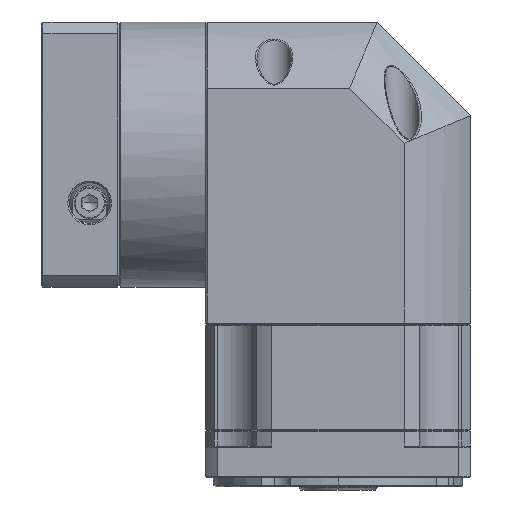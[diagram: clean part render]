
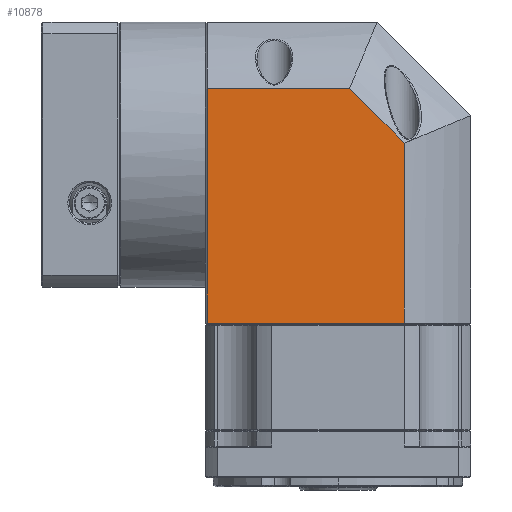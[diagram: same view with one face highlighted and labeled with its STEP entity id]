
A CAD part, left-side view. The second image highlights one B-rep face of the part: STEP entity #10878.
In plain terms, the highlighted planar face has unit normal (-1, 0, 0).
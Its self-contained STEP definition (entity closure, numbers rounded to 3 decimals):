
#1290 = CARTESIAN_POINT ( 'NONE',  ( -87.975, 26.563, 29.524 ) ) ;
#4385 = VECTOR ( 'NONE', #114763, 1000. ) ;
#7249 = DIRECTION ( 'NONE',  ( 0., 1., 0. ) ) ;
#8503 = DIRECTION ( 'NONE',  ( 0., 0., -1. ) ) ;
#8869 = ORIENTED_EDGE ( 'NONE', *, *, #101349, .F. ) ;
#10414 = VECTOR ( 'NONE', #45575, 1000. ) ;
#10878 = ADVANCED_FACE ( 'NONE', ( #76533 ), #78760, .F. ) ;
#12226 = CARTESIAN_POINT ( 'NONE',  ( -87.975, 72.746, 29.524 ) ) ;
#12323 = CARTESIAN_POINT ( 'NONE',  ( -87.975, 72.746, -45.689 ) ) ;
#14325 = CARTESIAN_POINT ( 'NONE',  ( -87.975, 26.563, 29.524 ) ) ;
#18013 = EDGE_CURVE ( 'NONE', #101600, #27806, #24886, .T. ) ;
#23253 = CARTESIAN_POINT ( 'NONE',  ( -87.975, 9.033, -45.689 ) ) ;
#24886 = LINE ( 'NONE', #86019, #10414 ) ;
#27806 = VERTEX_POINT ( 'NONE', #119415 ) ;
#29884 = EDGE_CURVE ( 'NONE', #52484, #44263, #121783, .T. ) ;
#32671 = ORIENTED_EDGE ( 'NONE', *, *, #18013, .F. ) ;
#44263 = VERTEX_POINT ( 'NONE', #23253 ) ;
#44677 = LINE ( 'NONE', #12226, #4385 ) ;
#45575 = DIRECTION ( 'NONE',  ( 0., 0., 1. ) ) ;
#48691 = VECTOR ( 'NONE', #84018, 1000. ) ;
#52484 = VERTEX_POINT ( 'NONE', #81592 ) ;
#59982 = EDGE_LOOP ( 'NONE', ( #81180, #117512, #8869, #78695, #32671 ) ) ;
#60322 = CARTESIAN_POINT ( 'NONE',  ( -87.975, 9.033, 54.311 ) ) ;
#69216 = CARTESIAN_POINT ( 'NONE',  ( -87.975, 72.246, -45.689 ) ) ;
#69796 = DIRECTION ( 'NONE',  ( 1., 0., 0. ) ) ;
#75730 = EDGE_CURVE ( 'NONE', #101600, #44263, #132505, .T. ) ;
#76533 = FACE_OUTER_BOUND ( 'NONE', #59982, .T. ) ;
#77656 = LINE ( 'NONE', #1290, #48691 ) ;
#78695 = ORIENTED_EDGE ( 'NONE', *, *, #114893, .F. ) ;
#78760 = PLANE ( 'NONE',  #111766 ) ;
#81180 = ORIENTED_EDGE ( 'NONE', *, *, #75730, .T. ) ;
#81592 = CARTESIAN_POINT ( 'NONE',  ( -87.975, 9.033, 11.994 ) ) ;
#84018 = DIRECTION ( 'NONE',  ( 0., -0.707, -0.707 ) ) ;
#84291 = DIRECTION ( 'NONE',  ( 0., -1., 0. ) ) ;
#85516 = VERTEX_POINT ( 'NONE', #14325 ) ;
#86019 = CARTESIAN_POINT ( 'NONE',  ( -87.975, 72.246, 50.811 ) ) ;
#94454 = VECTOR ( 'NONE', #8503, 1000. ) ;
#101349 = EDGE_CURVE ( 'NONE', #85516, #52484, #77656, .T. ) ;
#101600 = VERTEX_POINT ( 'NONE', #69216 ) ;
#111766 = AXIS2_PLACEMENT_3D ( 'NONE', #120949, #69796, #7249 ) ;
#114763 = DIRECTION ( 'NONE',  ( 0., -1., 0. ) ) ;
#114893 = EDGE_CURVE ( 'NONE', #27806, #85516, #44677, .T. ) ;
#117512 = ORIENTED_EDGE ( 'NONE', *, *, #29884, .F. ) ;
#119415 = CARTESIAN_POINT ( 'NONE',  ( -87.975, 72.246, 29.524 ) ) ;
#120949 = CARTESIAN_POINT ( 'NONE',  ( -87.975, 72.746, 50.811 ) ) ;
#121783 = LINE ( 'NONE', #60322, #94454 ) ;
#130855 = VECTOR ( 'NONE', #84291, 1000. ) ;
#132505 = LINE ( 'NONE', #12323, #130855 ) ;
